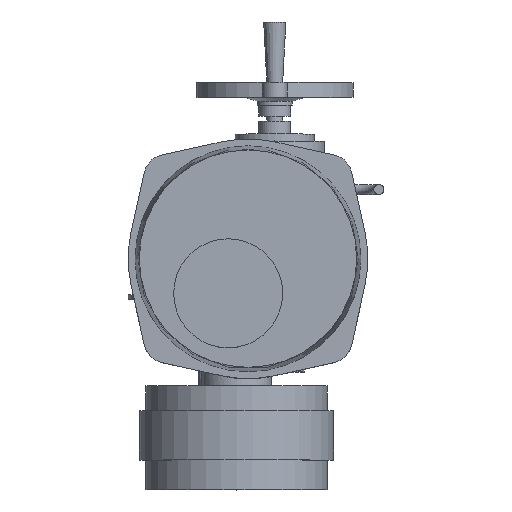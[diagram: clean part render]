
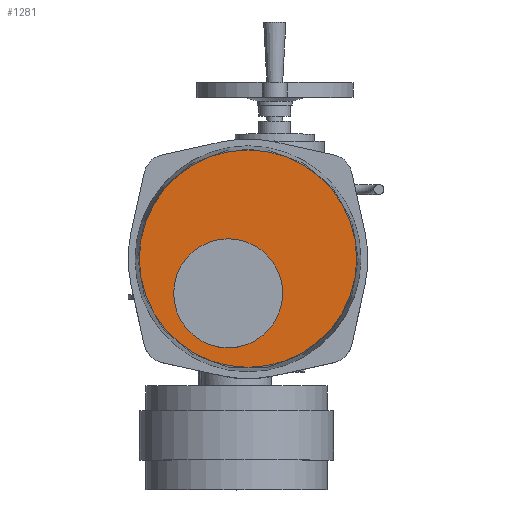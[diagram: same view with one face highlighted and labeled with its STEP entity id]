
A CAD part, top view. The second image highlights one B-rep face of the part: STEP entity #1281.
In plain terms, the highlighted planar face has unit normal (0, 0, 1).
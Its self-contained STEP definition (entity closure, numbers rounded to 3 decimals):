
#1281=ADVANCED_FACE('',(#2823,#2825),#2827,.T.);
#2823=FACE_BOUND('',#2824,.T.);
#2824=EDGE_LOOP('',(#3837));
#2825=FACE_BOUND('',#2826,.T.);
#2826=EDGE_LOOP('',(#3838));
#2827=PLANE('',#2828);
#2828=AXIS2_PLACEMENT_3D('',#2829,#2830,#2831);
#2829=CARTESIAN_POINT('',(20.,38.,519.));
#2830=DIRECTION('',(0.,0.,1.));
#2831=DIRECTION('',(-1.,0.,0.));
#3837=ORIENTED_EDGE('',*,*,#4316,.T.);
#3838=ORIENTED_EDGE('',*,*,#4357,.F.);
#4316=EDGE_CURVE('',#4925,#4925,#4926,.T.);
#4357=EDGE_CURVE('',#4985,#4985,#4986,.T.);
#4925=VERTEX_POINT('',#7827);
#4926=CIRCLE('',#7828,109.703);
#4985=VERTEX_POINT('',#7985);
#4986=CIRCLE('',#7986,55.);
#7827=CARTESIAN_POINT('',(-89.703,38.,519.));
#7828=AXIS2_PLACEMENT_3D('',#7829,#7830,#7831);
#7829=CARTESIAN_POINT('',(20.,38.,519.));
#7830=DIRECTION('',(0.,0.,1.));
#7831=DIRECTION('',(-1.,0.,0.));
#7985=CARTESIAN_POINT('',(-55.,3.,519.));
#7986=AXIS2_PLACEMENT_3D('',#7987,#7988,#7989);
#7987=CARTESIAN_POINT('',(0.,3.,519.));
#7988=DIRECTION('',(0.,0.,1.));
#7989=DIRECTION('',(-1.,0.,0.));
